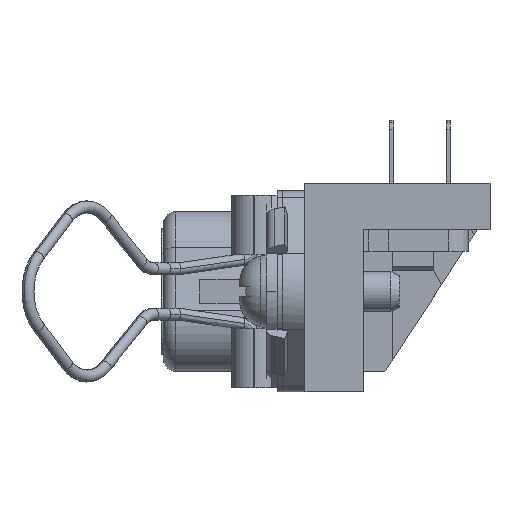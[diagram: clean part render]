
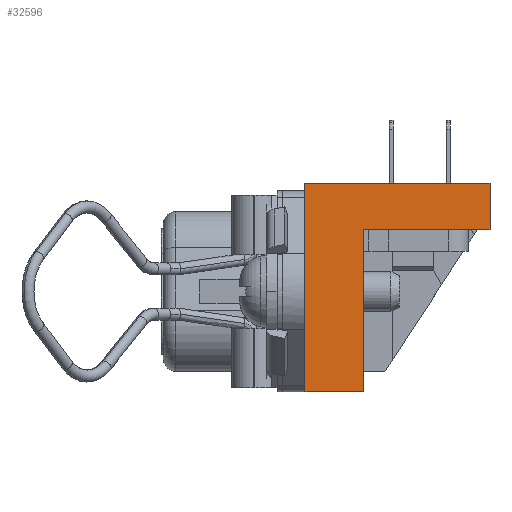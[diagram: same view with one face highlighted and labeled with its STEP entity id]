
A CAD part, left-side view. The second image highlights one B-rep face of the part: STEP entity #32596.
In plain terms, the highlighted planar face has unit normal (-1, 0, 0).
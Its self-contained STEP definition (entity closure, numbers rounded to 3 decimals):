
#3009 = AXIS2_PLACEMENT_3D ( 'NONE', #12315, #33616, #33483 ) ;
#4809 = VECTOR ( 'NONE', #9574, 1000. ) ;
#5483 = ORIENTED_EDGE ( 'NONE', *, *, #19221, .F. ) ;
#7155 = VECTOR ( 'NONE', #33661, 1000. ) ;
#7405 = LINE ( 'NONE', #16272, #43636 ) ;
#7551 = LINE ( 'NONE', #38319, #43789 ) ;
#8271 = VERTEX_POINT ( 'NONE', #12953 ) ;
#8632 = LINE ( 'NONE', #37780, #4809 ) ;
#8654 = DIRECTION ( 'NONE',  ( 0., -1., 0. ) ) ;
#9234 = FACE_OUTER_BOUND ( 'NONE', #33900, .T. ) ;
#9574 = DIRECTION ( 'NONE',  ( 0., 0., -1. ) ) ;
#10134 = ORIENTED_EDGE ( 'NONE', *, *, #38408, .T. ) ;
#10479 = ORIENTED_EDGE ( 'NONE', *, *, #33037, .T. ) ;
#10647 = CARTESIAN_POINT ( 'NONE',  ( -27.39, 1.2, 8.13 ) ) ;
#11706 = VERTEX_POINT ( 'NONE', #23126 ) ;
#11953 = EDGE_CURVE ( 'NONE', #42338, #36161, #15240, .T. ) ;
#12315 = CARTESIAN_POINT ( 'NONE',  ( -27.39, 1.2, -7.55 ) ) ;
#12953 = CARTESIAN_POINT ( 'NONE',  ( -27.39, 1.2, -7.55 ) ) ;
#13353 = CARTESIAN_POINT ( 'NONE',  ( -27.39, 1.2, 0. ) ) ;
#13628 = DIRECTION ( 'NONE',  ( 0., 0., -1. ) ) ;
#14004 = ORIENTED_EDGE ( 'NONE', *, *, #34255, .T. ) ;
#14990 = CARTESIAN_POINT ( 'NONE',  ( -27.39, -12.7, 8.13 ) ) ;
#15240 = LINE ( 'NONE', #10647, #35006 ) ;
#15759 = VECTOR ( 'NONE', #42942, 1000. ) ;
#15825 = PLANE ( 'NONE',  #3009 ) ;
#16272 = CARTESIAN_POINT ( 'NONE',  ( -27.39, 1.2, -7.55 ) ) ;
#16866 = LINE ( 'NONE', #29285, #15759 ) ;
#18017 = CARTESIAN_POINT ( 'NONE',  ( -27.39, 1.2, 8.13 ) ) ;
#19221 = EDGE_CURVE ( 'NONE', #36161, #38946, #7551, .T. ) ;
#19804 = CARTESIAN_POINT ( 'NONE',  ( -27.39, -12.7, 4.63 ) ) ;
#22701 = VERTEX_POINT ( 'NONE', #13353 ) ;
#23126 = CARTESIAN_POINT ( 'NONE',  ( -27.39, -3.2, 4.63 ) ) ;
#24168 = CARTESIAN_POINT ( 'NONE',  ( -27.39, -3.2, -7.55 ) ) ;
#25507 = EDGE_CURVE ( 'NONE', #42338, #22701, #8632, .T. ) ;
#27971 = ORIENTED_EDGE ( 'NONE', *, *, #11953, .F. ) ;
#28727 = DIRECTION ( 'NONE',  ( 0., -1., 0. ) ) ;
#29285 = CARTESIAN_POINT ( 'NONE',  ( -27.39, 1.2, -7.55 ) ) ;
#30138 = CARTESIAN_POINT ( 'NONE',  ( -27.39, 1.2, 4.63 ) ) ;
#30809 = VECTOR ( 'NONE', #37916, 1000. ) ;
#31565 = EDGE_CURVE ( 'NONE', #38946, #11706, #42799, .T. ) ;
#32596 = ADVANCED_FACE ( 'NONE', ( #9234 ), #15825, .T. ) ;
#33037 = EDGE_CURVE ( 'NONE', #22701, #8271, #16866, .T. ) ;
#33306 = ORIENTED_EDGE ( 'NONE', *, *, #25507, .T. ) ;
#33483 = DIRECTION ( 'NONE',  ( 0., 0., -1. ) ) ;
#33597 = ORIENTED_EDGE ( 'NONE', *, *, #31565, .F. ) ;
#33616 = DIRECTION ( 'NONE',  ( -1., 0., 0. ) ) ;
#33661 = DIRECTION ( 'NONE',  ( 0., 1., 0. ) ) ;
#33900 = EDGE_LOOP ( 'NONE', ( #33597, #5483, #27971, #33306, #10479, #14004, #10134 ) ) ;
#34255 = EDGE_CURVE ( 'NONE', #8271, #37190, #7405, .T. ) ;
#35006 = VECTOR ( 'NONE', #28727, 1000. ) ;
#36161 = VERTEX_POINT ( 'NONE', #14990 ) ;
#37190 = VERTEX_POINT ( 'NONE', #24168 ) ;
#37414 = LINE ( 'NONE', #41449, #30809 ) ;
#37780 = CARTESIAN_POINT ( 'NONE',  ( -27.39, 1.2, -7.55 ) ) ;
#37916 = DIRECTION ( 'NONE',  ( 0., 0., 1. ) ) ;
#38319 = CARTESIAN_POINT ( 'NONE',  ( -27.39, -12.7, -7.55 ) ) ;
#38408 = EDGE_CURVE ( 'NONE', #37190, #11706, #37414, .T. ) ;
#38946 = VERTEX_POINT ( 'NONE', #19804 ) ;
#41449 = CARTESIAN_POINT ( 'NONE',  ( -27.39, -3.2, -7.55 ) ) ;
#42338 = VERTEX_POINT ( 'NONE', #18017 ) ;
#42799 = LINE ( 'NONE', #30138, #7155 ) ;
#42942 = DIRECTION ( 'NONE',  ( 0., 0., -1. ) ) ;
#43636 = VECTOR ( 'NONE', #8654, 1000. ) ;
#43789 = VECTOR ( 'NONE', #13628, 1000. ) ;
